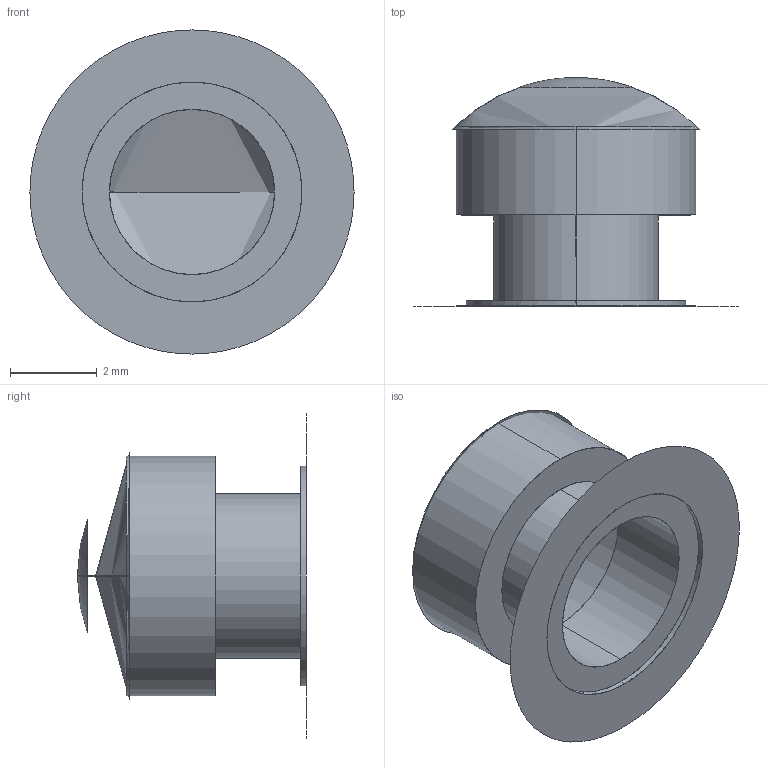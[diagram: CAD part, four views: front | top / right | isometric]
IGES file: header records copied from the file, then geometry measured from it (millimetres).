
Start section: SolidWorks IGES file using analytic representation for surfaces
Global section: file name: D:\Solid_parts\MECHeDESIGN\Bal-Tec\Catalog 105-A\Distribution\IGES\312-TBR-CB.IGS; native system: SolidWorks 2005 by SolidWorks Corporation; preprocessor: SolidWorks 2005 by SolidWorks Corporation; author: rvillegas; date: 061205.184843; units: inch
Bounding box: 7.49 x 5.28 x 7.49 mm (x, y, z)
Surface area: 142.1 mm2 (no closed solid volume)
Topology: 0 solids, 0 shells, 11 faces, 228 edges, 228 vertices
Faces by surface type: revolution 8, bspline 3
